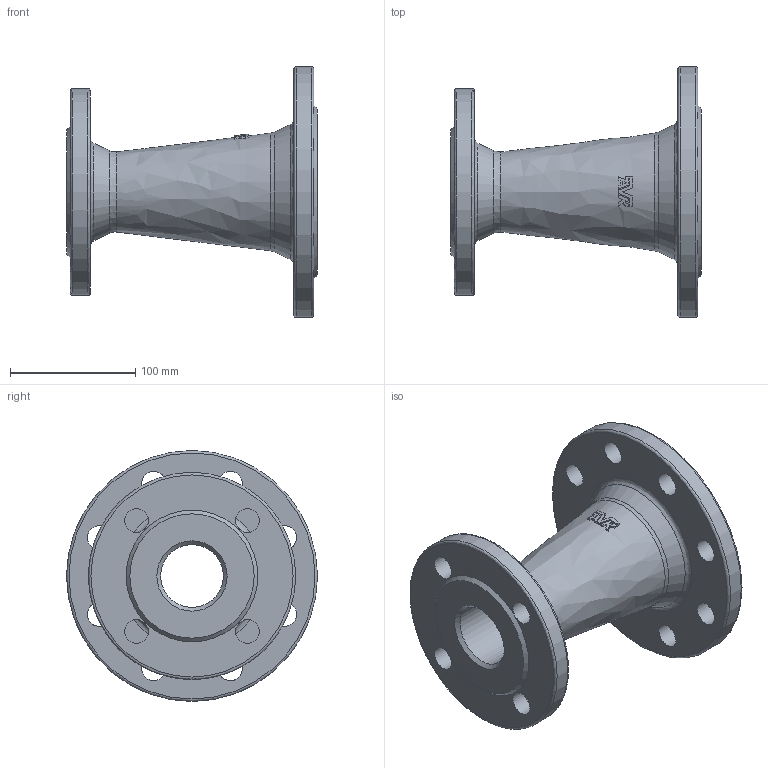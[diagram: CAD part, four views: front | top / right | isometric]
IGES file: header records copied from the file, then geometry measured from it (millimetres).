
Start section: SolidWorks IGES file using analytic representation for surfaces
Global section: file name: \\avksan2\techshare\PBM outline export from Enovia\O_712_2210_DN80_DN50_1X_REV01.igs; native system: SolidWorks 2022; preprocessor: SolidWorks 2022; author: pbm; date: 240807.125346; units: millimetre
Bounding box: 200 x 200 x 200 mm (x, y, z)
Surface area: 188195.9 mm2 (no closed solid volume)
Topology: 0 solids, 0 shells, 79 faces, 373 edges, 341 vertices
Faces by surface type: bspline 41, revolution 38
